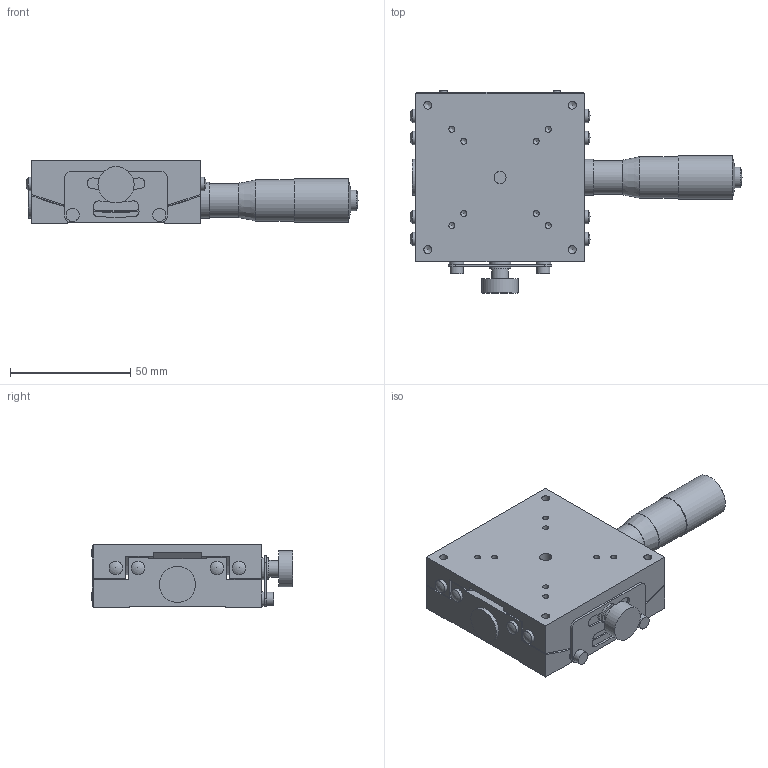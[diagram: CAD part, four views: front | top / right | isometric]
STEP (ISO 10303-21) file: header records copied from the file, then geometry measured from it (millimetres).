
FILE_DESCRIPTION( ( 'STEP AP203' ), '1' );
FILE_NAME( 'C:/Documents and Settings/09371/デスクトップ/CAD-ORG-STEP-DATA-3D簡素化依頼/3D_DATA_STEP/B58-70UAR.step', '2007-02-09T04:54:00', ( ' ' ), ( ' ' ), 'XStep 1.0', ' ', ' ' );
FILE_SCHEMA( ( 'CONFIG_CONTROL_DESIGN' ) );
Length unit declared in the file: millimetre
Products named in the file (3): 1; 2; 3
Bounding box: 137.9 x 83.9 x 26 mm (x, y, z)
Volume: 130715.6 mm3; surface area: 43282.2 mm2
Topology: 3 solids, 3 shells, 195 faces, 499 edges, 329 vertices
Faces by surface type: cylinder 97, plane 72, cone 16, sphere 10
Full cylindrical faces by diameter (mm): 2.5 x16, 3 x4, 3.3 x8, 4 x1, 4.5 x4, 5 x2, 5.5 x2, 5.6 x8, 6 x2, 6.35 x2, 7 x1, 8 x4, 8.6 x1, 9 x2, 14 x1, 15 x3, 16.8 x1, 17.2 x1, 18 x1
Entity records: 5479 total; most frequent: CARTESIAN_POINT 1157, DIRECTION 926, ORIENTED_EDGE 694, AXIS2_PLACEMENT_3D 390, EDGE_CURVE 347, EDGE_LOOP 320, VERTEX_POINT 280, FACE_OUTER_BOUND 259
